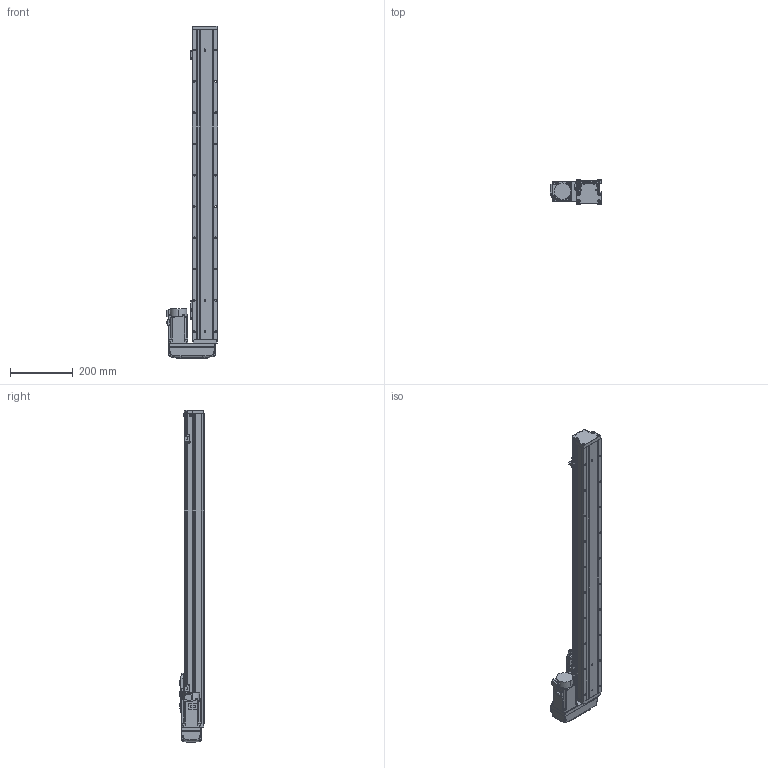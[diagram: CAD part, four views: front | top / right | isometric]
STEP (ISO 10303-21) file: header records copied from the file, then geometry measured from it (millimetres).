
FILE_DESCRIPTION (( 'STEP AP203' ), '1' );
FILE_NAME ('GTH8-800-BL-M20-C4.step', '2022-09-23T01:01:31', ( '微软用户' ), ( '微软中国' ), 'SwSTEP 2.0', 'SolidWorks 2020', '' );
FILE_SCHEMA (( 'CONFIG_CONTROL_DESIGN' ));
Length unit declared in the file: millimetre
Products named in the file (18): GTH80-003; GBT 70.1-M4×16; CTHA86-015-1_CTHA86-015-2; GTH80-004; GTH80-028; CTHA86-033_M40B; GTH80-006; GTH50-024; GTH8-800-BL-M20-C4; GTH80-013; GTH50-023; GBT 70.3-M3℅6; GBT96.1-2002 3×0.8; GTH80-022; BTH-M3X5X6; GTH80-001_800; GBT 70.1-M3℅6; hg-kn43j_-s100_
Assembly tree (57 placements, depth 2):
  GTH8-800-BL-M20-C4
    GTH80-001_800
    GTH80-003
    GTH80-004
    GTH80-006
    GTH80-013
    GBT 70.3-M3℅6  x4
    GTH80-022
    GBT 70.1-M3℅6  x14
    GBT 70.1-M4×16  x8
    GTH80-028  x2
    GTH50-024  x3
    GTH50-023  x3
    GBT96.1-2002 3×0.8  x6
    BTH-M3X5X6  x8
    hg-kn43j_-s100_
    CTHA86-015-1_CTHA86-015-2
    CTHA86-033_M40B
Bounding box: 164.8 x 78 x 1061 mm (x, y, z)
Volume: 5275489.9 mm3; surface area: 530132.4 mm2
Topology: 59 solids, 59 shells, 2248 faces, 5199 edges, 3187 vertices
Faces by surface type: plane 1187, cylinder 619, cone 260, torus 166, bspline 8, sphere 8
Entity records: 41218 total; most frequent: CARTESIAN_POINT 7241, DIRECTION 6705, ORIENTED_EDGE 6216, EDGE_CURVE 3108, AXIS2_PLACEMENT_3D 2349, LINE 2007, VECTOR 2007, VERTEX_POINT 1962
